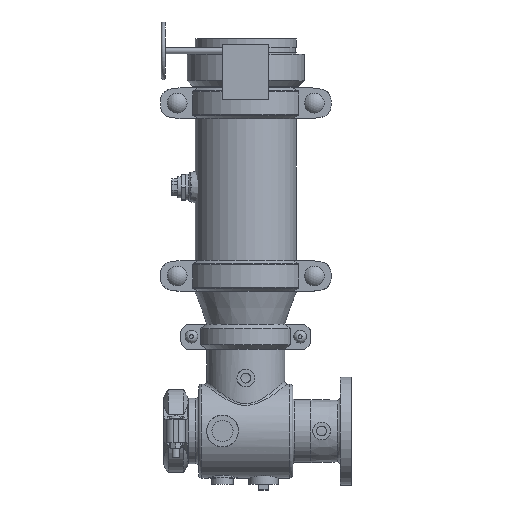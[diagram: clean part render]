
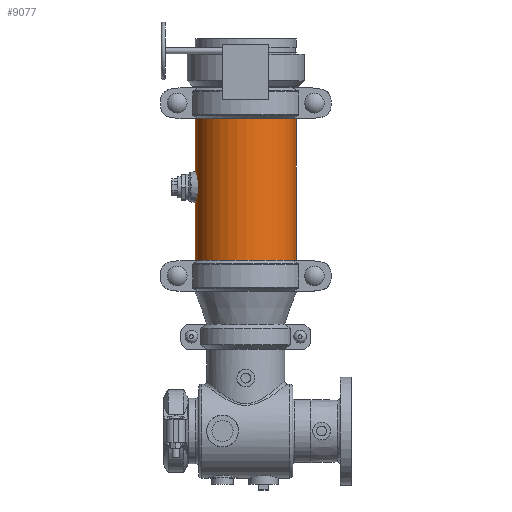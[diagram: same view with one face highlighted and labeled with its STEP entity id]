
A CAD part, top view. The second image highlights one B-rep face of the part: STEP entity #9077.
In plain terms, the highlighted cylindrical face has radius 109.537 mm (diameter 219.075 mm), a full revolution.
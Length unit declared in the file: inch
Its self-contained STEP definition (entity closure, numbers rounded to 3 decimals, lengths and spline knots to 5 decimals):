
#866=FACE_OUTER_BOUND('',#1434,.T.);
#1434=EDGE_LOOP('',(#6921,#6922,#6923,#6924,#6925,#6926));
#2019=CIRCLE('',#10102,4.3125);
#2020=CIRCLE('',#10103,4.3125);
#2021=CIRCLE('',#10105,4.3125);
#2022=CIRCLE('',#10106,4.3125);
#2550=LINE('',#15698,#3187);
#3187=VECTOR('',#12021,4.3125);
#3968=VERTEX_POINT('',#15689);
#3969=VERTEX_POINT('',#15690);
#3970=VERTEX_POINT('',#15694);
#3971=VERTEX_POINT('',#15695);
#5020=EDGE_CURVE('',#3968,#3969,#2019,.T.);
#5021=EDGE_CURVE('',#3969,#3968,#2020,.T.);
#5022=EDGE_CURVE('',#3970,#3971,#2021,.T.);
#5023=EDGE_CURVE('',#3971,#3970,#2022,.T.);
#5024=EDGE_CURVE('',#3971,#3969,#2550,.T.);
#6921=ORIENTED_EDGE('',*,*,#5022,.F.);
#6922=ORIENTED_EDGE('',*,*,#5023,.F.);
#6923=ORIENTED_EDGE('',*,*,#5024,.T.);
#6924=ORIENTED_EDGE('',*,*,#5021,.T.);
#6925=ORIENTED_EDGE('',*,*,#5020,.T.);
#6926=ORIENTED_EDGE('',*,*,#5024,.F.);
#8257=CYLINDRICAL_SURFACE('',#10104,4.3125);
#9077=ADVANCED_FACE('',(#866),#8257,.T.);
#10102=AXIS2_PLACEMENT_3D('',#15691,#12011,#12012);
#10103=AXIS2_PLACEMENT_3D('',#15692,#12013,#12014);
#10104=AXIS2_PLACEMENT_3D('',#15693,#12015,#12016);
#10105=AXIS2_PLACEMENT_3D('',#15696,#12017,#12018);
#10106=AXIS2_PLACEMENT_3D('',#15697,#12019,#12020);
#12011=DIRECTION('center_axis',(0.,-1.,0.));
#12012=DIRECTION('ref_axis',(1.,0.,0.));
#12013=DIRECTION('center_axis',(0.,-1.,0.));
#12014=DIRECTION('ref_axis',(1.,0.,0.));
#12015=DIRECTION('center_axis',(0.,-1.,0.));
#12016=DIRECTION('ref_axis',(1.,0.,0.));
#12017=DIRECTION('center_axis',(0.,-1.,0.));
#12018=DIRECTION('ref_axis',(1.,0.,0.));
#12019=DIRECTION('center_axis',(0.,-1.,0.));
#12020=DIRECTION('ref_axis',(1.,0.,0.));
#12021=DIRECTION('',(0.,1.,0.));
#15689=CARTESIAN_POINT('',(4.3125,6.0295,0.));
#15690=CARTESIAN_POINT('',(-4.3125,6.0295,0.));
#15691=CARTESIAN_POINT('Origin',(0.,6.0295,0.));
#15692=CARTESIAN_POINT('Origin',(0.,6.0295,0.));
#15693=CARTESIAN_POINT('Origin',(0.,0.,
0.));
#15694=CARTESIAN_POINT('',(4.3125,-6.0295,0.));
#15695=CARTESIAN_POINT('',(-4.3125,-6.0295,0.));
#15696=CARTESIAN_POINT('Origin',(0.,-6.0295,0.));
#15697=CARTESIAN_POINT('Origin',(0.,-6.0295,0.));
#15698=CARTESIAN_POINT('',(-4.3125,0.,0.));
